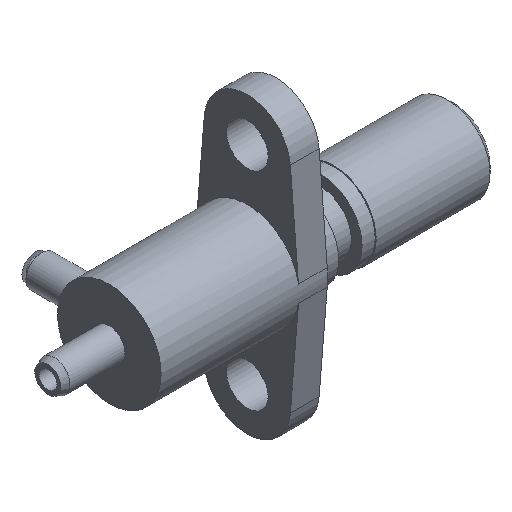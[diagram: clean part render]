
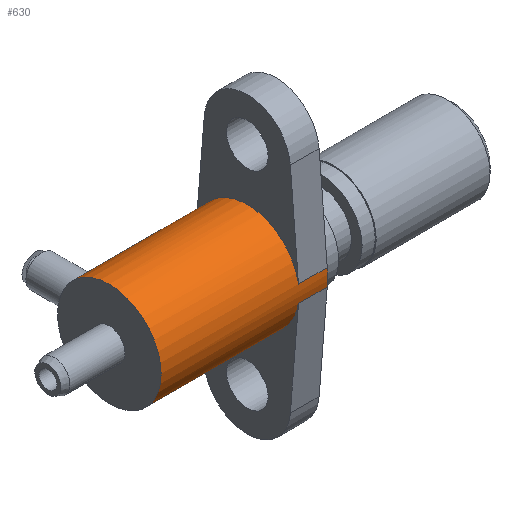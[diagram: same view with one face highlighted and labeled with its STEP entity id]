
A CAD part, isometric view. The second image highlights one B-rep face of the part: STEP entity #630.
In plain terms, the highlighted cylindrical face has radius 3.96 mm (diameter 7.92 mm), a full revolution.
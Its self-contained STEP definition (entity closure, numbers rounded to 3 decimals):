
#33=FACE_BOUND('',#96,.T.);
#44=B_SPLINE_CURVE_WITH_KNOTS('',3,(#1071,#1072,#1073,#1074,#1075,#1076,
#1077,#1078,#1079,#1080,#1081,#1082,#1083,#1084,#1085,#1086,#1087,#1088,
#1089),.UNSPECIFIED.,.F.,.F.,(4,2,2,2,3,2,2,2,4),(0.544,0.589,
0.634,0.68,0.725,0.77,
0.816,0.861,0.906),.UNSPECIFIED.);
#45=B_SPLINE_CURVE_WITH_KNOTS('',3,(#1090,#1091,#1092,#1093,#1094,#1095,
#1096,#1097,#1098,#1099,#1100,#1101,#1102,#1103,#1104,#1105,#1106,#1107),
 .UNSPECIFIED.,.F.,.F.,(4,2,2,2,2,2,2,2,4),(0.181,0.227,
0.272,0.317,0.363,0.408,
0.453,0.499,0.544),.UNSPECIFIED.);
#62=FACE_OUTER_BOUND('',#95,.T.);
#95=EDGE_LOOP('',(#488,#489,#490,#491,#492,#493,#494,#495,#496,#497,#498,
#499,#500));
#96=EDGE_LOOP('',(#501,#502));
#139=LINE('',#1123,#171);
#140=LINE('',#1127,#172);
#141=LINE('',#1131,#173);
#142=LINE('',#1135,#174);
#143=LINE('',#1141,#175);
#171=VECTOR('',#873,2.2);
#172=VECTOR('',#876,2.2);
#173=VECTOR('',#879,2.2);
#174=VECTOR('',#882,3.96);
#175=VECTOR('',#889,2.2);
#226=CIRCLE('',#719,3.96);
#227=CIRCLE('',#720,3.96);
#228=CIRCLE('',#721,3.96);
#229=CIRCLE('',#722,3.96);
#230=CIRCLE('',#723,3.96);
#231=CIRCLE('',#724,3.96);
#232=CIRCLE('',#725,3.96);
#284=VERTEX_POINT('',#1068);
#285=VERTEX_POINT('',#1070);
#290=VERTEX_POINT('',#1119);
#291=VERTEX_POINT('',#1120);
#292=VERTEX_POINT('',#1122);
#293=VERTEX_POINT('',#1124);
#294=VERTEX_POINT('',#1126);
#295=VERTEX_POINT('',#1128);
#296=VERTEX_POINT('',#1130);
#297=VERTEX_POINT('',#1132);
#298=VERTEX_POINT('',#1134);
#299=VERTEX_POINT('',#1136);
#300=VERTEX_POINT('',#1139);
#364=EDGE_CURVE('',#284,#285,#44,.T.);
#365=EDGE_CURVE('',#285,#284,#45,.T.);
#371=EDGE_CURVE('',#290,#291,#226,.T.);
#372=EDGE_CURVE('',#292,#291,#139,.T.);
#373=EDGE_CURVE('',#292,#293,#227,.T.);
#374=EDGE_CURVE('',#294,#293,#140,.T.);
#375=EDGE_CURVE('',#294,#295,#228,.T.);
#376=EDGE_CURVE('',#296,#295,#141,.T.);
#377=EDGE_CURVE('',#296,#297,#229,.T.);
#378=EDGE_CURVE('',#297,#298,#142,.T.);
#379=EDGE_CURVE('',#299,#298,#230,.T.);
#380=EDGE_CURVE('',#298,#299,#231,.T.);
#381=EDGE_CURVE('',#297,#300,#232,.T.);
#382=EDGE_CURVE('',#290,#300,#143,.T.);
#488=ORIENTED_EDGE('',*,*,#371,.T.);
#489=ORIENTED_EDGE('',*,*,#372,.F.);
#490=ORIENTED_EDGE('',*,*,#373,.T.);
#491=ORIENTED_EDGE('',*,*,#374,.F.);
#492=ORIENTED_EDGE('',*,*,#375,.T.);
#493=ORIENTED_EDGE('',*,*,#376,.F.);
#494=ORIENTED_EDGE('',*,*,#377,.T.);
#495=ORIENTED_EDGE('',*,*,#378,.T.);
#496=ORIENTED_EDGE('',*,*,#379,.F.);
#497=ORIENTED_EDGE('',*,*,#380,.F.);
#498=ORIENTED_EDGE('',*,*,#378,.F.);
#499=ORIENTED_EDGE('',*,*,#381,.T.);
#500=ORIENTED_EDGE('',*,*,#382,.F.);
#501=ORIENTED_EDGE('',*,*,#365,.F.);
#502=ORIENTED_EDGE('',*,*,#364,.F.);
#613=CYLINDRICAL_SURFACE('',#718,3.96);
#630=ADVANCED_FACE('',(#62,#33),#613,.T.);
#718=AXIS2_PLACEMENT_3D('',#1118,#869,#870);
#719=AXIS2_PLACEMENT_3D('',#1121,#871,#872);
#720=AXIS2_PLACEMENT_3D('',#1125,#874,#875);
#721=AXIS2_PLACEMENT_3D('',#1129,#877,#878);
#722=AXIS2_PLACEMENT_3D('',#1133,#880,#881);
#723=AXIS2_PLACEMENT_3D('',#1137,#883,#884);
#724=AXIS2_PLACEMENT_3D('',#1138,#885,#886);
#725=AXIS2_PLACEMENT_3D('',#1140,#887,#888);
#869=DIRECTION('center_axis',(1.,0.,0.));
#870=DIRECTION('ref_axis',(0.,0.,1.));
#871=DIRECTION('center_axis',(-1.,0.,0.));
#872=DIRECTION('ref_axis',(0.,-1.,0.));
#873=DIRECTION('',(1.,0.,0.));
#874=DIRECTION('center_axis',(-1.,0.,0.));
#875=DIRECTION('ref_axis',(0.,-0.987,0.162));
#876=DIRECTION('',(-1.,0.,0.));
#877=DIRECTION('center_axis',(-1.,0.,0.));
#878=DIRECTION('ref_axis',(0.,0.987,0.162));
#879=DIRECTION('',(1.,0.,0.));
#880=DIRECTION('center_axis',(-1.,0.,0.));
#881=DIRECTION('ref_axis',(0.,0.987,-0.162));
#882=DIRECTION('',(-1.,0.,0.));
#883=DIRECTION('center_axis',(-1.,0.,0.));
#884=DIRECTION('ref_axis',(0.,-1.,0.));
#885=DIRECTION('center_axis',(-1.,0.,0.));
#886=DIRECTION('ref_axis',(0.,-1.,0.));
#887=DIRECTION('center_axis',(-1.,0.,0.));
#888=DIRECTION('ref_axis',(0.,0.987,-0.162));
#889=DIRECTION('',(-1.,0.,0.));
#1068=CARTESIAN_POINT('',(-5.32,3.96,0.));
#1070=CARTESIAN_POINT('',(-2.93,3.96,0.));
#1071=CARTESIAN_POINT('Ctrl Pts',(-5.32,3.96,0.));
#1072=CARTESIAN_POINT('Ctrl Pts',(-5.32,3.96,0.151));
#1073=CARTESIAN_POINT('Ctrl Pts',(-5.29,3.951,0.312));
#1074=CARTESIAN_POINT('Ctrl Pts',(-5.167,3.916,0.606));
#1075=CARTESIAN_POINT('Ctrl Pts',(-5.076,3.892,0.739));
#1076=CARTESIAN_POINT('Ctrl Pts',(-4.864,3.846,0.951));
#1077=CARTESIAN_POINT('Ctrl Pts',(-4.731,3.821,1.042));
#1078=CARTESIAN_POINT('Ctrl Pts',(-4.437,3.785,1.165));
#1079=CARTESIAN_POINT('Ctrl Pts',(-4.276,3.775,1.195));
#1080=CARTESIAN_POINT('Ctrl Pts',(-4.125,3.775,1.195));
#1081=CARTESIAN_POINT('Ctrl Pts',(-3.974,3.775,1.195));
#1082=CARTESIAN_POINT('Ctrl Pts',(-3.813,3.785,1.165));
#1083=CARTESIAN_POINT('Ctrl Pts',(-3.519,3.821,1.042));
#1084=CARTESIAN_POINT('Ctrl Pts',(-3.386,3.846,0.951));
#1085=CARTESIAN_POINT('Ctrl Pts',(-3.174,3.892,0.739));
#1086=CARTESIAN_POINT('Ctrl Pts',(-3.083,3.916,0.606));
#1087=CARTESIAN_POINT('Ctrl Pts',(-2.96,3.951,0.312));
#1088=CARTESIAN_POINT('Ctrl Pts',(-2.93,3.96,0.151));
#1089=CARTESIAN_POINT('Ctrl Pts',(-2.93,3.96,0.));
#1090=CARTESIAN_POINT('Ctrl Pts',(-2.93,3.96,0.));
#1091=CARTESIAN_POINT('Ctrl Pts',(-2.93,3.96,-0.151));
#1092=CARTESIAN_POINT('Ctrl Pts',(-2.96,3.951,-0.312));
#1093=CARTESIAN_POINT('Ctrl Pts',(-3.083,3.916,-0.606));
#1094=CARTESIAN_POINT('Ctrl Pts',(-3.174,3.892,-0.739));
#1095=CARTESIAN_POINT('Ctrl Pts',(-3.386,3.846,-0.951));
#1096=CARTESIAN_POINT('Ctrl Pts',(-3.519,3.821,-1.042));
#1097=CARTESIAN_POINT('Ctrl Pts',(-3.813,3.785,-1.165));
#1098=CARTESIAN_POINT('Ctrl Pts',(-3.974,3.775,-1.195));
#1099=CARTESIAN_POINT('Ctrl Pts',(-4.276,3.775,-1.195));
#1100=CARTESIAN_POINT('Ctrl Pts',(-4.437,3.785,-1.165));
#1101=CARTESIAN_POINT('Ctrl Pts',(-4.731,3.821,-1.042));
#1102=CARTESIAN_POINT('Ctrl Pts',(-4.864,3.846,-0.951));
#1103=CARTESIAN_POINT('Ctrl Pts',(-5.076,3.892,-0.739));
#1104=CARTESIAN_POINT('Ctrl Pts',(-5.167,3.916,-0.606));
#1105=CARTESIAN_POINT('Ctrl Pts',(-5.29,3.951,-0.312));
#1106=CARTESIAN_POINT('Ctrl Pts',(-5.32,3.96,-0.151));
#1107=CARTESIAN_POINT('Ctrl Pts',(-5.32,3.96,0.));
#1118=CARTESIAN_POINT('Origin',(6.375,0.,0.));
#1119=CARTESIAN_POINT('',(6.375,-3.907,-0.643));
#1120=CARTESIAN_POINT('',(6.375,-3.907,0.643));
#1121=CARTESIAN_POINT('Origin',(6.375,0.,0.));
#1122=CARTESIAN_POINT('',(4.175,-3.907,0.643));
#1123=CARTESIAN_POINT('',(4.175,-3.907,0.643));
#1124=CARTESIAN_POINT('',(4.175,3.907,0.643));
#1125=CARTESIAN_POINT('Origin',(4.175,0.,0.));
#1126=CARTESIAN_POINT('',(6.375,3.907,0.643));
#1127=CARTESIAN_POINT('',(6.375,3.907,0.643));
#1128=CARTESIAN_POINT('',(6.375,3.907,-0.643));
#1129=CARTESIAN_POINT('Origin',(6.375,0.,0.));
#1130=CARTESIAN_POINT('',(4.175,3.907,-0.643));
#1131=CARTESIAN_POINT('',(4.175,3.907,-0.643));
#1132=CARTESIAN_POINT('',(4.175,0.,-3.96));
#1133=CARTESIAN_POINT('Origin',(4.175,0.,0.));
#1134=CARTESIAN_POINT('',(-6.375,0.,-3.96));
#1135=CARTESIAN_POINT('',(6.375,0.,-3.96));
#1136=CARTESIAN_POINT('',(-6.375,-3.96,0.));
#1137=CARTESIAN_POINT('Origin',(-6.375,0.,0.));
#1138=CARTESIAN_POINT('Origin',(-6.375,0.,0.));
#1139=CARTESIAN_POINT('',(4.175,-3.907,-0.643));
#1140=CARTESIAN_POINT('Origin',(4.175,0.,0.));
#1141=CARTESIAN_POINT('',(6.375,-3.907,-0.643));
